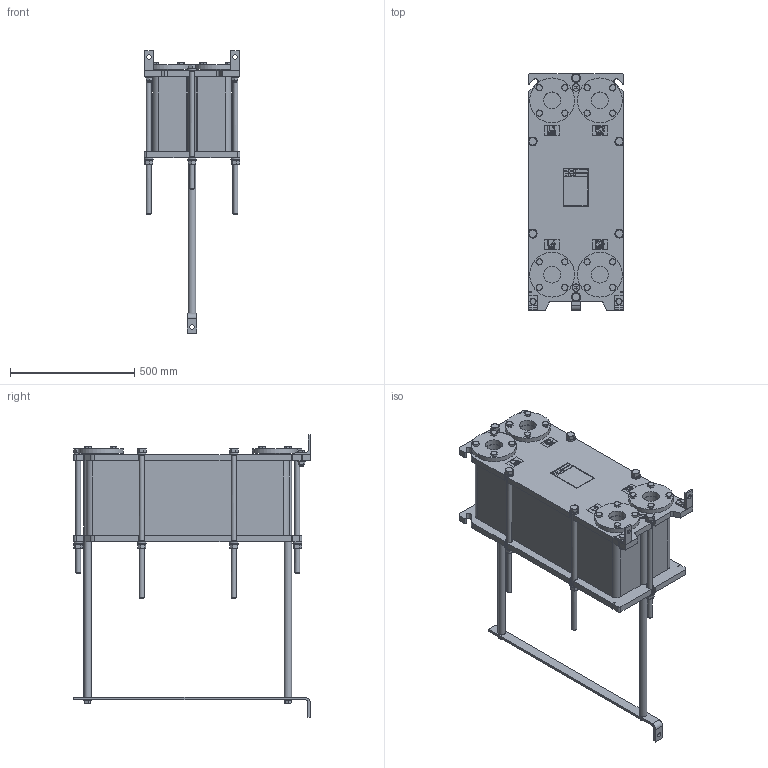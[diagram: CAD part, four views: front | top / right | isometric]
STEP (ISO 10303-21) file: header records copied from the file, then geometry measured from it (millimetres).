
FILE_DESCRIPTION (( 'STEP AP214' ), '1' );
FILE_NAME ('ÏÒ N65 ðåä 7 ê ñèãìà 111...180.STEP', '2021-04-11T17:07:10', ( '' ), ( '' ), 'SwSTEP 2.0', 'SolidWorks 2018', '' );
FILE_SCHEMA (( 'AUTOMOTIVE_DESIGN' ));
Length unit declared in the file: millimetre
Products named in the file (3): ÏÒ N65 ðåä 7 ê ñèãìà2 111...180; ÏÒ N65 ðåä 7 ê ñèãìà 111...180; ÏÒ N65 ðåä 7 ê ñèãìà1
Assembly tree (2 placements, depth 2):
  ÏÒ N65 ðåä 7 ê ñèãìà 111...180
    ÏÒ N65 ðåä 7 ê ñèãìà2 111...180
    ÏÒ N65 ðåä 7 ê ñèãìà1
Bounding box: 385 x 950 x 1135 mm (x, y, z)
Volume: 94423992.1 mm3; surface area: 3866564.5 mm2
Topology: 28 solids, 34 shells, 2008 faces, 4906 edges, 3129 vertices
Faces by surface type: plane 1024, cone 434, bspline 275, cylinder 241, torus 34
Full cylindrical faces by diameter (mm): 16 x44, 17 x4, 18 x25, 20 x12, 21 x12, 27 x12, 29.48 x2, 30 x8, 36 x12, 68 x12, 68.01 x4, 121 x4, 180 x4
Entity records: 88632 total; most frequent: CARTESIAN_POINT 23642, ORIENTED_EDGE 8964, DIRECTION 7784, EDGE_CURVE 4482, VERTEX_POINT 3028, AXIS2_PLACEMENT_3D 2714, EDGE_LOOP 2600, VECTOR 2356
